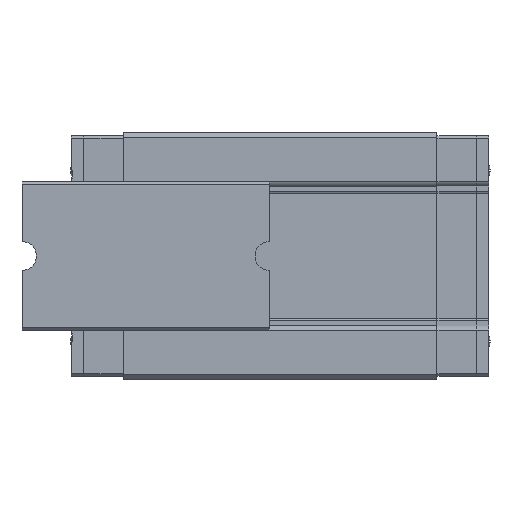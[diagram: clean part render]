
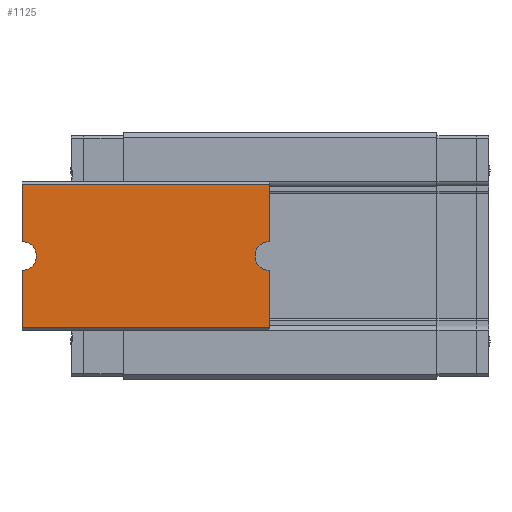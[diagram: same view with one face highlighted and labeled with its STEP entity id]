
A CAD part, front view. The second image highlights one B-rep face of the part: STEP entity #1125.
In plain terms, the highlighted planar face has unit normal (0, -1, 0).
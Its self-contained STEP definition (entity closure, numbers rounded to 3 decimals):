
#1125 = ADVANCED_FACE( '', ( #2302 ), #2303, .F. );
#2302 = FACE_OUTER_BOUND( '', #3538, .T. );
#2303 = PLANE( '', #3539 );
#3538 = EDGE_LOOP( '', ( #6714, #6715, #6716, #6717, #6718, #6719, #6720, #6721 ) );
#3539 = AXIS2_PLACEMENT_3D( '', #6722, #6723, #6724 );
#6714 = ORIENTED_EDGE( '', *, *, #8652, .F. );
#6715 = ORIENTED_EDGE( '', *, *, #8333, .F. );
#6716 = ORIENTED_EDGE( '', *, *, #8831, .T. );
#6717 = ORIENTED_EDGE( '', *, *, #8781, .T. );
#6718 = ORIENTED_EDGE( '', *, *, #7527, .F. );
#6719 = ORIENTED_EDGE( '', *, *, #8141, .T. );
#6720 = ORIENTED_EDGE( '', *, *, #8695, .F. );
#6721 = ORIENTED_EDGE( '', *, *, #8585, .F. );
#6722 = CARTESIAN_POINT( '', ( 15., 0., 8.692 ) );
#6723 = DIRECTION( '', ( 0., 1., 0. ) );
#6724 = DIRECTION( '', ( 0., 0., 1. ) );
#7527 = EDGE_CURVE( '', #8996, #8991, #8998, .T. );
#8141 = EDGE_CURVE( '', #8996, #10036, #10038, .T. );
#8333 = EDGE_CURVE( '', #10326, #10328, #10329, .T. );
#8585 = EDGE_CURVE( '', #10692, #10694, #10695, .T. );
#8652 = EDGE_CURVE( '', #10328, #10692, #10779, .T. );
#8695 = EDGE_CURVE( '', #10694, #10036, #10832, .T. );
#8781 = EDGE_CURVE( '', #10937, #8991, #10938, .T. );
#8831 = EDGE_CURVE( '', #10326, #10937, #10994, .T. );
#8991 = VERTEX_POINT( '', #11168 );
#8996 = VERTEX_POINT( '', #11174 );
#8998 = CIRCLE( '', #11177, 1.75 );
#10036 = VERTEX_POINT( '', #12610 );
#10038 = LINE( '', #12613, #12614 );
#10326 = VERTEX_POINT( '', #13029 );
#10328 = VERTEX_POINT( '', #13032 );
#10329 = LINE( '', #13033, #13034 );
#10692 = VERTEX_POINT( '', #13555 );
#10694 = VERTEX_POINT( '', #13558 );
#10695 = LINE( '', #13559, #13560 );
#10779 = CIRCLE( '', #13686, 1.75 );
#10832 = LINE( '', #13762, #13763 );
#10937 = VERTEX_POINT( '', #13912 );
#10938 = LINE( '', #13913, #13914 );
#10994 = LINE( '', #13995, #13996 );
#11168 = CARTESIAN_POINT( '', ( -15., 0., 1.75 ) );
#11174 = CARTESIAN_POINT( '', ( -15., 0., -1.75 ) );
#11177 = AXIS2_PLACEMENT_3D( '', #14205, #14206, #14207 );
#12610 = CARTESIAN_POINT( '', ( -15., 0., -8.692 ) );
#12613 = CARTESIAN_POINT( '', ( -15., 0., 8.692 ) );
#12614 = VECTOR( '', #14910, 1000. );
#13029 = CARTESIAN_POINT( '', ( 15., 0., 8.692 ) );
#13032 = CARTESIAN_POINT( '', ( 15., 0., 1.75 ) );
#13033 = CARTESIAN_POINT( '', ( 15., 0., 8.692 ) );
#13034 = VECTOR( '', #15096, 1000. );
#13555 = CARTESIAN_POINT( '', ( 15., 0., -1.75 ) );
#13558 = CARTESIAN_POINT( '', ( 15., 0., -8.692 ) );
#13559 = CARTESIAN_POINT( '', ( 15., 0., 8.692 ) );
#13560 = VECTOR( '', #15355, 1000. );
#13686 = AXIS2_PLACEMENT_3D( '', #15404, #15405, #15406 );
#13762 = CARTESIAN_POINT( '', ( 15., 0., -8.692 ) );
#13763 = VECTOR( '', #15442, 1000. );
#13912 = CARTESIAN_POINT( '', ( -15., 0., 8.692 ) );
#13913 = CARTESIAN_POINT( '', ( -15., 0., 8.692 ) );
#13914 = VECTOR( '', #15514, 1000. );
#13995 = CARTESIAN_POINT( '', ( 15., 0., 8.692 ) );
#13996 = VECTOR( '', #15555, 1000. );
#14205 = CARTESIAN_POINT( '', ( -15., 0., 0. ) );
#14206 = DIRECTION( '', ( 0., -1., 0. ) );
#14207 = DIRECTION( '', ( 0., 0., -1. ) );
#14910 = DIRECTION( '', ( 0., 0., -1. ) );
#15096 = DIRECTION( '', ( 0., 0., -1. ) );
#15355 = DIRECTION( '', ( 0., 0., -1. ) );
#15404 = CARTESIAN_POINT( '', ( 15., 0., 0. ) );
#15405 = DIRECTION( '', ( 0., -1., 0. ) );
#15406 = DIRECTION( '', ( 0., 0., -1. ) );
#15442 = DIRECTION( '', ( -1., 0., 0. ) );
#15514 = DIRECTION( '', ( 0., 0., -1. ) );
#15555 = DIRECTION( '', ( -1., 0., 0. ) );
